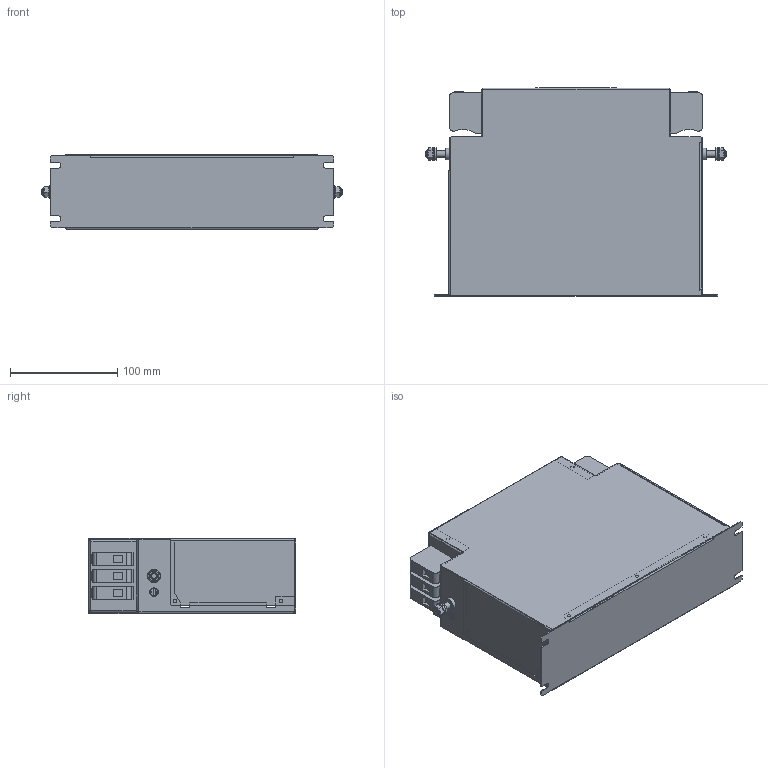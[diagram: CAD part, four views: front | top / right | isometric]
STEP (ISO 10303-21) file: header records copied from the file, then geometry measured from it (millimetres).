
FILE_DESCRIPTION(/* description */ ('raw material description'),/* implementation_level */ '2;1');
FILE_NAME(/* name */ 'C:\Users\Oliver.Volic\OneDrive - Schaffner EMV AG\Projekte\STEP\Wanda\FN3288IT-50_63-53.stp',/* time_stamp */ '2018-07-02T11:17:06+02:00',/* author */ ('Oliver.Volic'),/* organization */ ('Schaffner EMV AG'),/* preprocessor_version */ 'ST-DEVELOPER v16.5',/* originating_system */ 'Autodesk Inventor 2017',/* authorisation */ '');
FILE_SCHEMA (('AUTOMOTIVE_DESIGN { 1 0 10303 214 3 1 1 }'));
Length unit declared in the file: millimetre
Products named in the file (1): FN3288IT-50_63-53
Bounding box: 280.86 x 194.05 x 70 mm (x, y, z)
Volume: 213124.2 mm3; surface area: 316076.3 mm2
Topology: 1 solids, 5 shells, 681 faces, 1667 edges, 1041 vertices
Faces by surface type: plane 484, cylinder 133, cone 30, bspline 25, torus 9
Full cylindrical faces by diameter (mm): 1 x6, 3.3 x13, 5.459 x2, 6 x4, 6.4 x2, 7 x2, 8 x2, 8.7 x4, 9 x6, 11.05 x2, 12 x2
Entity records: 20478 total; most frequent: CARTESIAN_POINT 4083, ORIENTED_EDGE 3178, DIRECTION 3121, EDGE_CURVE 1582, LINE 1161, VECTOR 1161, VERTEX_POINT 1028, AXIS2_PLACEMENT_3D 980
